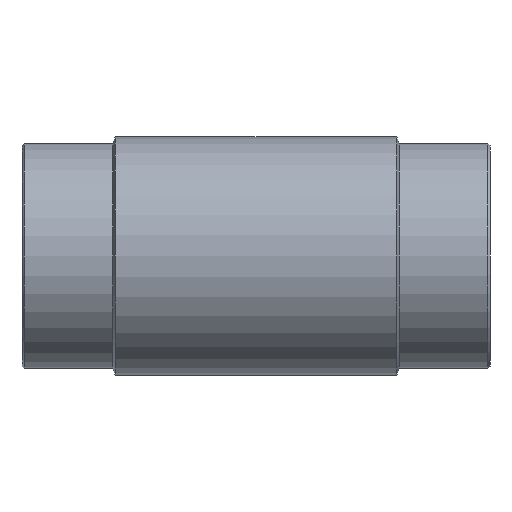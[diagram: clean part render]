
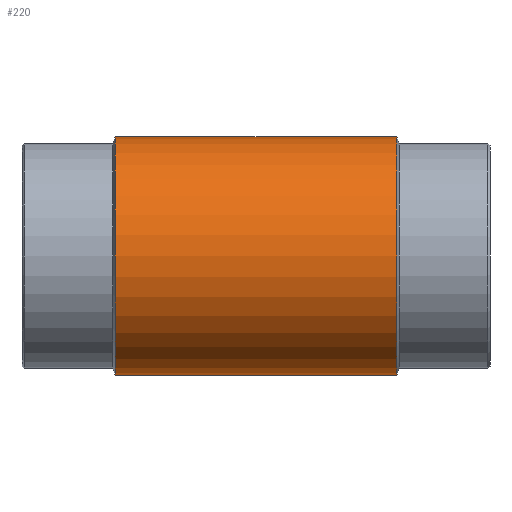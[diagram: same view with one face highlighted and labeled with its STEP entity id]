
A CAD part, front view. The second image highlights one B-rep face of the part: STEP entity #220.
In plain terms, the highlighted cylindrical face has radius 334 mm (diameter 668 mm), a full revolution.
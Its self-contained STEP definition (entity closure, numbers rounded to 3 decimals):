
#34=CIRCLE('',#251,334.);
#40=CIRCLE('',#262,334.);
#62=ORIENTED_EDGE('',*,*,#100,.T.);
#63=ORIENTED_EDGE('',*,*,#101,.T.);
#64=ORIENTED_EDGE('',*,*,#93,.F.);
#65=ORIENTED_EDGE('',*,*,#99,.T.);
#93=EDGE_CURVE('',#114,#114,#34,.T.);
#99=EDGE_CURVE('',#120,#120,#40,.T.);
#100=EDGE_CURVE('',#121,#122,#130,.F.);
#101=EDGE_CURVE('',#122,#121,#131,.T.);
#114=VERTEX_POINT('',#371);
#120=VERTEX_POINT('',#388);
#121=VERTEX_POINT('',#391);
#122=VERTEX_POINT('',#392);
#130=ELLIPSE('',#264,483.07,334.);
#131=ELLIPSE('',#265,483.07,334.);
#149=EDGE_LOOP('',(#62,#63));
#150=EDGE_LOOP('',(#64));
#151=EDGE_LOOP('',(#65));
#185=FACE_BOUND('',#149,.T.);
#186=FACE_BOUND('',#150,.T.);
#187=FACE_BOUND('',#151,.T.);
#209=CYLINDRICAL_SURFACE('',#263,334.);
#220=ADVANCED_FACE('',(#185,#186,#187),#209,.T.);
#251=AXIS2_PLACEMENT_3D('',#370,#297,#298);
#262=AXIS2_PLACEMENT_3D('',#387,#319,#320);
#263=AXIS2_PLACEMENT_3D('',#389,#321,#322);
#264=AXIS2_PLACEMENT_3D('',#390,#323,#324);
#265=AXIS2_PLACEMENT_3D('',#393,#325,#326);
#297=DIRECTION('',(-1.,0.,0.));
#298=DIRECTION('',(0.,0.,1.));
#319=DIRECTION('',(-1.,0.,0.));
#320=DIRECTION('',(0.,0.,1.));
#321=DIRECTION('',(-1.,0.,0.));
#322=DIRECTION('',(0.,0.,1.));
#323=DIRECTION('',(0.691,0.722,0.));
#324=DIRECTION('',(-0.722,0.691,0.));
#325=DIRECTION('',(0.691,-0.722,0.));
#326=DIRECTION('',(-0.722,-0.691,0.));
#370=CARTESIAN_POINT('',(-395.,0.,0.));
#371=CARTESIAN_POINT('',(-395.,0.,334.));
#387=CARTESIAN_POINT('',(395.,0.,0.));
#388=CARTESIAN_POINT('',(395.,0.,334.));
#389=CARTESIAN_POINT('',(-60.,0.,0.));
#390=CARTESIAN_POINT('',(0.,0.,0.));
#391=CARTESIAN_POINT('',(0.,0.,334.));
#392=CARTESIAN_POINT('',(0.,0.,-334.));
#393=CARTESIAN_POINT('',(0.,0.,0.));
